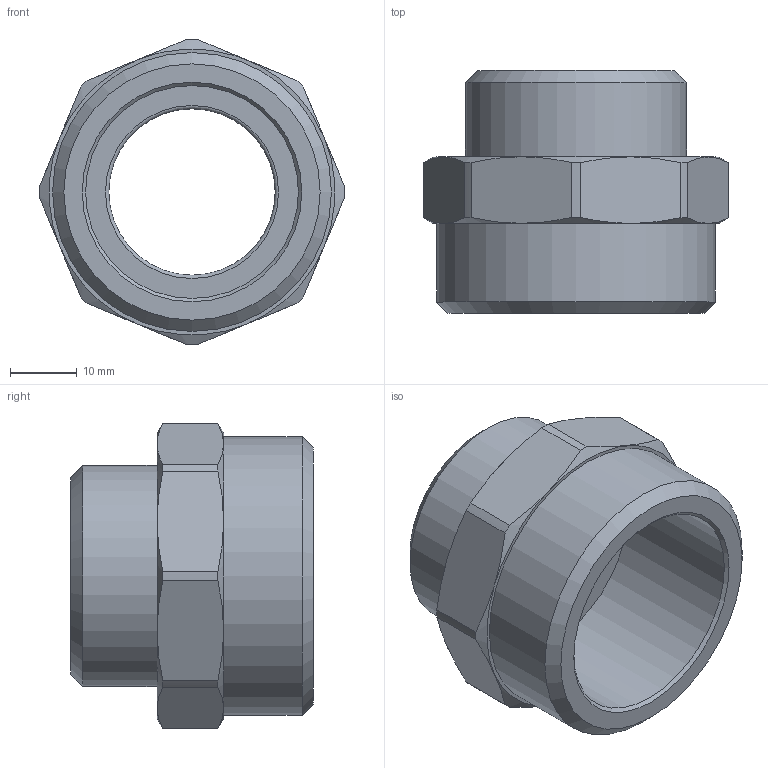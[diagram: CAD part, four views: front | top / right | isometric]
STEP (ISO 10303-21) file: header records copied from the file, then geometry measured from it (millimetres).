
FILE_DESCRIPTION(('STEP AP203'), '1');
FILE_NAME('滦.753157.006 - VTr.580.N.0706 丸镲咫麲1 1-4xG1', '2024-07-03T10:17:59', ('Boss'), (''), 'C3D Converter', 'C3D Toolkit', '');
FILE_SCHEMA(('CONFIG_CONTROL_DESIGN'));
Length unit declared in the file: millimetre
Products named in the file (1): ВР.753157.006
Bounding box: 46 x 36.5 x 46 mm (x, y, z)
Volume: 20294.6 mm3; surface area: 9569.8 mm2
Topology: 1 solids, 1 shells, 44 faces, 98 edges, 59 vertices
Faces by surface type: cone 18, plane 13, cylinder 12, torus 1
Full cylindrical faces by diameter (mm): 25 x1, 32 x1, 33.249 x1, 41.91 x1
Entity records: 1513 total; most frequent: CARTESIAN_POINT 753, DIRECTION 152, ORIENTED_EDGE 138, EDGE_CURVE 69, AXIS2_PLACEMENT_3D 68, VERTEX_POINT 49, EDGE_LOOP 48, ADVANCED_FACE 34
